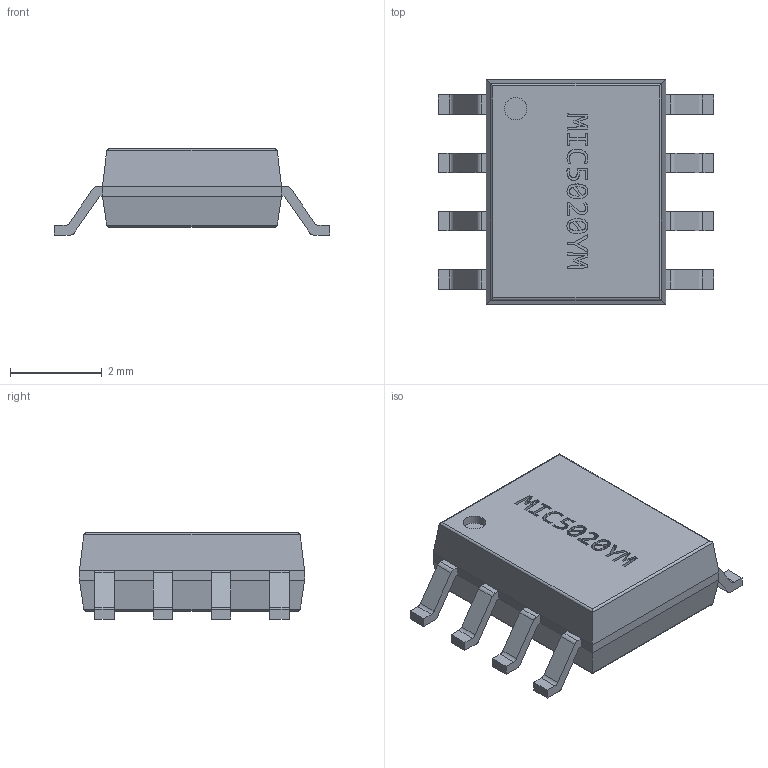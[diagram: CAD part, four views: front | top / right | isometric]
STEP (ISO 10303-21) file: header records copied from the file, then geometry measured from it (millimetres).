
FILE_DESCRIPTION(('FreeCAD Model'),'2;1');
FILE_NAME('/var/www/3D/0T/378624.2.1.stp','2017-09-06T21:06:26',( 'Author'),(''),'Open CASCADE STEP processor 6.8','FreeCAD','Unknown' );
FILE_SCHEMA(('AUTOMOTIVE_DESIGN_CC2 { 1 2 10303 214 -1 1 5 4 }'));
Length unit declared in the file: millimetre
Products named in the file (3): ASSEMBLY; Body; PinsArrayLR
Assembly tree (2 placements, depth 2):
  ASSEMBLY
    Body
    PinsArrayLR
Bounding box: 6 x 4.9 x 1.88 mm (x, y, z)
Volume: 32.2 mm3; surface area: 84.4 mm2
Topology: 9 solids, 9 shells, 354 faces, 950 edges, 628 vertices
Faces by surface type: plane 190, extrusion 131, cylinder 33
Full cylindrical faces by diameter (mm): 0.487 x1
Entity records: 23741 total; most frequent: CARTESIAN_POINT 5435, DIRECTION 2909, VECTOR 2315, LINE 2184, ORIENTED_EDGE 1900, PCURVE 1900, DEFINITIONAL_REPRESENTATION 1900, EDGE_CURVE 950
